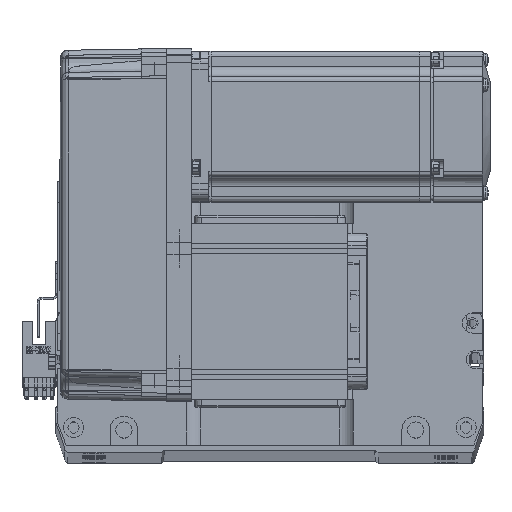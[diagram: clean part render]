
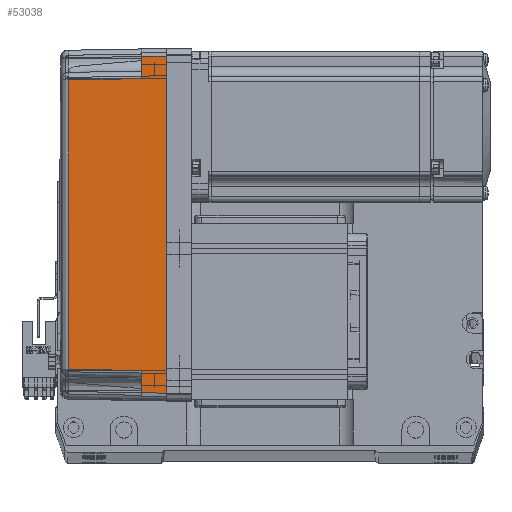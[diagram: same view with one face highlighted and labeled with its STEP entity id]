
A CAD part, top view. The second image highlights one B-rep face of the part: STEP entity #53038.
In plain terms, the highlighted planar face has unit normal (-0.018, 0, 1) as drawn and (0, 1, 0.017) by its records, which use the part's own axes.
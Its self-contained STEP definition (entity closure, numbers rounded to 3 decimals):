
#1789 = CARTESIAN_POINT ( 'NONE',  ( 57.495, 35.32, 38.985 ) ) ;
#2137 = CARTESIAN_POINT ( 'NONE',  ( 57.495, 35.32, 38.985 ) ) ;
#3268 = VECTOR ( 'NONE', #62610, 1000. ) ;
#5017 = EDGE_CURVE ( 'NONE', #32738, #26627, #40999, .T. ) ;
#5707 = VERTEX_POINT ( 'NONE', #20490 ) ;
#7323 = VERTEX_POINT ( 'NONE', #35236 ) ;
#8422 = LINE ( 'NONE', #58312, #65473 ) ;
#8742 = CARTESIAN_POINT ( 'NONE',  ( 67.001, 36.001, -0.052 ) ) ;
#9635 = B_SPLINE_CURVE_WITH_KNOTS ( 'NONE', 3,
 ( #32866, #12106, #49759, #2137 ),
 .UNSPECIFIED., .F., .F.,
 ( 4, 4 ),
 ( 0., 1. ),
 .UNSPECIFIED. ) ;
#11073 = LINE ( 'NONE', #35305, #25956 ) ;
#12106 = CARTESIAN_POINT ( 'NONE',  ( -19.165, 35.316, 39.181 ) ) ;
#12291 = CARTESIAN_POINT ( 'NONE',  ( -66.826, 35.825, 10. ) ) ;
#13344 = PLANE ( 'NONE',  #49822 ) ;
#14074 = DIRECTION ( 'NONE',  ( -0.017, -0.017, 1. ) ) ;
#14722 = LINE ( 'NONE', #38169, #17998 ) ;
#14881 = LINE ( 'NONE', #35583, #39603 ) ;
#16571 = EDGE_CURVE ( 'NONE', #26627, #5707, #14881, .T. ) ;
#17998 = VECTOR ( 'NONE', #27836, 1000. ) ;
#20490 = CARTESIAN_POINT ( 'NONE',  ( -58., 35.825, 10. ) ) ;
#20684 = VERTEX_POINT ( 'NONE', #1789 ) ;
#20917 = CARTESIAN_POINT ( 'NONE',  ( 70., 35.825, 10. ) ) ;
#22640 = CARTESIAN_POINT ( 'NONE',  ( 67., 36., 0. ) ) ;
#23084 = LINE ( 'NONE', #20917, #3268 ) ;
#24207 = DIRECTION ( 'NONE',  ( 0.017, 0.017, -1. ) ) ;
#24969 = DIRECTION ( 'NONE',  ( 1., 0., 0. ) ) ;
#25956 = VECTOR ( 'NONE', #24207, 1000. ) ;
#26627 = VERTEX_POINT ( 'NONE', #12291 ) ;
#26659 = VERTEX_POINT ( 'NONE', #22640 ) ;
#27836 = DIRECTION ( 'NONE',  ( 0.017, -0.017, 1. ) ) ;
#31107 = EDGE_CURVE ( 'NONE', #58164, #20684, #9635, .T. ) ;
#31631 = CARTESIAN_POINT ( 'NONE',  ( -67., 36., 0. ) ) ;
#31946 = DIRECTION ( 'NONE',  ( 1., 0., 0. ) ) ;
#32738 = VERTEX_POINT ( 'NONE', #31631 ) ;
#32866 = CARTESIAN_POINT ( 'NONE',  ( -57.495, 35.32, 38.985 ) ) ;
#33564 = ORIENTED_EDGE ( 'NONE', *, *, #16571, .T. ) ;
#34838 = EDGE_CURVE ( 'NONE', #26659, #36917, #63690, .T. ) ;
#35236 = CARTESIAN_POINT ( 'NONE',  ( 58., 35.825, 10. ) ) ;
#35305 = CARTESIAN_POINT ( 'NONE',  ( 57.495, 35.32, 38.985 ) ) ;
#35583 = CARTESIAN_POINT ( 'NONE',  ( 70., 35.825, 10. ) ) ;
#36809 = EDGE_CURVE ( 'NONE', #32738, #26659, #8422, .T. ) ;
#36917 = VERTEX_POINT ( 'NONE', #44138 ) ;
#38095 = EDGE_CURVE ( 'NONE', #7323, #36917, #23084, .T. ) ;
#38169 = CARTESIAN_POINT ( 'NONE',  ( -58., 35.825, 10. ) ) ;
#39603 = VECTOR ( 'NONE', #24969, 1000. ) ;
#40442 = ORIENTED_EDGE ( 'NONE', *, *, #36809, .F. ) ;
#40999 = LINE ( 'NONE', #47245, #66744 ) ;
#43310 = EDGE_LOOP ( 'NONE', ( #67537, #33564, #58193, #65149, #54328, #56777, #65705, #40442 ) ) ;
#43545 = EDGE_CURVE ( 'NONE', #20684, #7323, #11073, .T. ) ;
#44138 = CARTESIAN_POINT ( 'NONE',  ( 66.826, 35.825, 10. ) ) ;
#46319 = FACE_OUTER_BOUND ( 'NONE', #43310, .T. ) ;
#47216 = CARTESIAN_POINT ( 'NONE',  ( -57.495, 35.32, 38.985 ) ) ;
#47245 = CARTESIAN_POINT ( 'NONE',  ( -67., 36., 0. ) ) ;
#49759 = CARTESIAN_POINT ( 'NONE',  ( 19.165, 35.316, 39.181 ) ) ;
#49822 = AXIS2_PLACEMENT_3D ( 'NONE', #65814, #66036, #50363 ) ;
#50363 = DIRECTION ( 'NONE',  ( 0., -0.017, 1. ) ) ;
#52597 = DIRECTION ( 'NONE',  ( 0.017, -0.017, 1. ) ) ;
#53038 = ADVANCED_FACE ( 'NONE', ( #46319 ), #13344, .T. ) ;
#54328 = ORIENTED_EDGE ( 'NONE', *, *, #43545, .T. ) ;
#56231 = VECTOR ( 'NONE', #14074, 1000. ) ;
#56777 = ORIENTED_EDGE ( 'NONE', *, *, #38095, .T. ) ;
#58164 = VERTEX_POINT ( 'NONE', #47216 ) ;
#58193 = ORIENTED_EDGE ( 'NONE', *, *, #61161, .T. ) ;
#58312 = CARTESIAN_POINT ( 'NONE',  ( 0., 36., 0. ) ) ;
#61161 = EDGE_CURVE ( 'NONE', #5707, #58164, #14722, .T. ) ;
#62610 = DIRECTION ( 'NONE',  ( 1., 0., 0. ) ) ;
#63690 = LINE ( 'NONE', #8742, #56231 ) ;
#65149 = ORIENTED_EDGE ( 'NONE', *, *, #31107, .T. ) ;
#65473 = VECTOR ( 'NONE', #31946, 1000. ) ;
#65705 = ORIENTED_EDGE ( 'NONE', *, *, #34838, .F. ) ;
#65814 = CARTESIAN_POINT ( 'NONE',  ( 70., 36., 0. ) ) ;
#66036 = DIRECTION ( 'NONE',  ( 0., 1., 0.017 ) ) ;
#66744 = VECTOR ( 'NONE', #52597, 1000. ) ;
#67537 = ORIENTED_EDGE ( 'NONE', *, *, #5017, .T. ) ;
